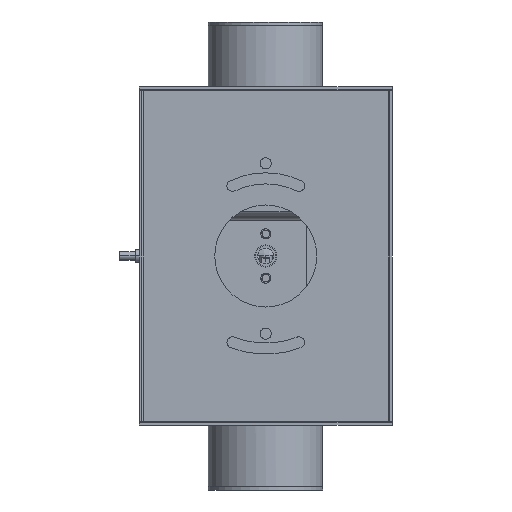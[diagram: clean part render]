
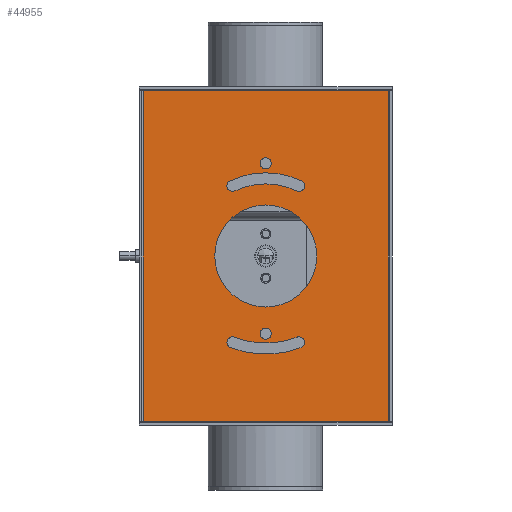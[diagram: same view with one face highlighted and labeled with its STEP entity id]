
A CAD part, left-side view. The second image highlights one B-rep face of the part: STEP entity #44955.
In plain terms, the highlighted planar face has unit normal (-1, 0, 0) as drawn and (1, 0, 0) by its records, which use the part's own axes.
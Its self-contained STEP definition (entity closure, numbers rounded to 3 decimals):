
#43965=DIRECTION('',(0.,0.,1.));
#43966=VECTOR('',#43965,110.6);
#43967=CARTESIAN_POINT('',(1.2,74.55,-55.3));
#43968=LINE('',#43967,#43966);
#43990=CARTESIAN_POINT('',(1.2,-35.,0.));
#43991=DIRECTION('',(1.,0.,0.));
#43992=DIRECTION('',(0.,0.,1.));
#43993=AXIS2_PLACEMENT_3D('',#43990,#43991,#43992);
#43995=CARTESIAN_POINT('',(1.2,-35.,0.));
#43996=DIRECTION('',(1.,0.,0.));
#43997=DIRECTION('',(0.,0.,-1.));
#43998=AXIS2_PLACEMENT_3D('',#43995,#43996,#43997);
#44000=CARTESIAN_POINT('',(1.2,41.75,0.));
#44001=DIRECTION('',(1.,0.,0.));
#44002=DIRECTION('',(0.,0.,1.));
#44003=AXIS2_PLACEMENT_3D('',#44000,#44001,#44002);
#44005=CARTESIAN_POINT('',(1.2,41.75,0.));
#44006=DIRECTION('',(1.,0.,0.));
#44007=DIRECTION('',(0.,0.,-1.));
#44008=AXIS2_PLACEMENT_3D('',#44005,#44006,#44007);
#44010=CARTESIAN_POINT('',(1.2,0.,0.));
#44011=DIRECTION('',(1.,0.,0.));
#44012=DIRECTION('',(0.,0.,1.));
#44013=AXIS2_PLACEMENT_3D('',#44010,#44011,#44012);
#44015=CARTESIAN_POINT('',(1.2,0.,0.));
#44016=DIRECTION('',(1.,0.,0.));
#44017=DIRECTION('',(0.,0.,-1.));
#44018=AXIS2_PLACEMENT_3D('',#44015,#44016,#44017);
#44020=CARTESIAN_POINT('',(1.2,31.623,15.));
#44021=DIRECTION('',(1.,0.,0.));
#44022=DIRECTION('',(0.,0.904,0.429));
#44023=AXIS2_PLACEMENT_3D('',#44020,#44021,#44022);
#44025=CARTESIAN_POINT('',(1.2,0.,0.));
#44026=DIRECTION('',(1.,0.,0.));
#44027=DIRECTION('',(0.,0.904,-0.429));
#44028=AXIS2_PLACEMENT_3D('',#44025,#44026,#44027);
#44030=CARTESIAN_POINT('',(1.2,31.623,-15.));
#44031=DIRECTION('',(1.,0.,0.));
#44032=DIRECTION('',(0.,-0.904,0.429));
#44033=AXIS2_PLACEMENT_3D('',#44030,#44031,#44032);
#44035=CARTESIAN_POINT('',(1.2,0.,0.));
#44036=DIRECTION('',(1.,0.,0.));
#44037=DIRECTION('',(0.,0.904,-0.429));
#44038=AXIS2_PLACEMENT_3D('',#44035,#44036,#44037);
#44040=CARTESIAN_POINT('',(1.2,0.,0.));
#44041=DIRECTION('',(1.,0.,0.));
#44042=DIRECTION('',(0.,-0.933,0.359));
#44043=AXIS2_PLACEMENT_3D('',#44040,#44041,#44042);
#44045=CARTESIAN_POINT('',(1.2,-38.962,15.));
#44046=DIRECTION('',(1.,0.,0.));
#44047=DIRECTION('',(0.,0.933,-0.359));
#44048=AXIS2_PLACEMENT_3D('',#44045,#44046,#44047);
#44050=CARTESIAN_POINT('',(1.2,0.,0.));
#44051=DIRECTION('',(1.,0.,0.));
#44052=DIRECTION('',(0.,-0.933,0.359));
#44053=AXIS2_PLACEMENT_3D('',#44050,#44051,#44052);
#44055=CARTESIAN_POINT('',(1.2,-38.962,-15.));
#44056=DIRECTION('',(1.,0.,0.));
#44057=DIRECTION('',(0.,-0.933,-0.359));
#44058=AXIS2_PLACEMENT_3D('',#44055,#44056,#44057);
#44069=DIRECTION('',(0.,1.,0.));
#44070=VECTOR('',#44069,149.1);
#44071=CARTESIAN_POINT('',(1.2,-74.55,-55.3));
#44072=LINE('',#44071,#44070);
#44103=DIRECTION('',(0.,0.,-1.));
#44104=VECTOR('',#44103,110.6);
#44105=CARTESIAN_POINT('',(1.2,-74.55,55.3));
#44106=LINE('',#44105,#44104);
#44141=DIRECTION('',(0.,-1.,0.));
#44142=VECTOR('',#44141,149.1);
#44143=CARTESIAN_POINT('',(1.2,74.55,55.3));
#44144=LINE('',#44143,#44142);
#44230=CARTESIAN_POINT('',(1.2,0.,23.));
#44231=CARTESIAN_POINT('',(1.2,0.,-23.));
#44232=VERTEX_POINT('',#44230);
#44233=VERTEX_POINT('',#44231);
#44234=CARTESIAN_POINT('',(1.2,41.75,2.5));
#44235=CARTESIAN_POINT('',(1.2,41.75,-2.5));
#44236=VERTEX_POINT('',#44234);
#44237=VERTEX_POINT('',#44235);
#44238=CARTESIAN_POINT('',(1.2,-35.,2.5));
#44239=CARTESIAN_POINT('',(1.2,-35.,-2.5));
#44240=VERTEX_POINT('',#44238);
#44241=VERTEX_POINT('',#44239);
#44243=CARTESIAN_POINT('',(1.2,33.882,16.071));
#44245=VERTEX_POINT('',#44243);
#44247=CARTESIAN_POINT('',(1.2,29.364,13.929));
#44249=VERTEX_POINT('',#44247);
#44251=CARTESIAN_POINT('',(1.2,33.882,-16.071));
#44253=VERTEX_POINT('',#44251);
#44255=CARTESIAN_POINT('',(1.2,29.364,-13.929));
#44257=VERTEX_POINT('',#44255);
#44259=CARTESIAN_POINT('',(1.2,-36.629,14.102));
#44261=VERTEX_POINT('',#44259);
#44263=CARTESIAN_POINT('',(1.2,-41.295,15.898));
#44265=VERTEX_POINT('',#44263);
#44267=CARTESIAN_POINT('',(1.2,-41.295,-15.898));
#44269=VERTEX_POINT('',#44267);
#44271=CARTESIAN_POINT('',(1.2,-36.629,-14.102));
#44273=VERTEX_POINT('',#44271);
#44324=CARTESIAN_POINT('',(1.2,74.55,55.3));
#44325=VERTEX_POINT('',#44324);
#44328=CARTESIAN_POINT('',(1.2,-74.55,55.3));
#44329=VERTEX_POINT('',#44328);
#44348=CARTESIAN_POINT('',(1.2,-74.55,-55.3));
#44349=VERTEX_POINT('',#44348);
#44352=CARTESIAN_POINT('',(1.2,74.55,-55.3));
#44353=VERTEX_POINT('',#44352);
#44903=CARTESIAN_POINT('',(1.2,0.,0.));
#44904=DIRECTION('',(1.,0.,0.));
#44905=DIRECTION('',(0.,-1.,0.));
#44906=AXIS2_PLACEMENT_3D('',#44903,#44904,#44905);
#44907=PLANE('',#44906);
#44908=ORIENTED_EDGE('',*,*,#44884,.F.);
#44910=ORIENTED_EDGE('',*,*,#44909,.F.);
#44912=ORIENTED_EDGE('',*,*,#44911,.F.);
#44914=ORIENTED_EDGE('',*,*,#44913,.F.);
#44915=EDGE_LOOP('',(#44908,#44910,#44912,#44914));
#44916=FACE_OUTER_BOUND('',#44915,.F.);
#44918=ORIENTED_EDGE('',*,*,#44917,.T.);
#44920=ORIENTED_EDGE('',*,*,#44919,.T.);
#44921=EDGE_LOOP('',(#44918,#44920));
#44922=FACE_BOUND('',#44921,.F.);
#44924=ORIENTED_EDGE('',*,*,#44923,.T.);
#44926=ORIENTED_EDGE('',*,*,#44925,.T.);
#44927=EDGE_LOOP('',(#44924,#44926));
#44928=FACE_BOUND('',#44927,.F.);
#44930=ORIENTED_EDGE('',*,*,#44929,.T.);
#44932=ORIENTED_EDGE('',*,*,#44931,.T.);
#44933=EDGE_LOOP('',(#44930,#44932));
#44934=FACE_BOUND('',#44933,.F.);
#44936=ORIENTED_EDGE('',*,*,#44935,.T.);
#44938=ORIENTED_EDGE('',*,*,#44937,.F.);
#44940=ORIENTED_EDGE('',*,*,#44939,.T.);
#44942=ORIENTED_EDGE('',*,*,#44941,.T.);
#44943=EDGE_LOOP('',(#44936,#44938,#44940,#44942));
#44944=FACE_BOUND('',#44943,.F.);
#44946=ORIENTED_EDGE('',*,*,#44945,.F.);
#44948=ORIENTED_EDGE('',*,*,#44947,.T.);
#44950=ORIENTED_EDGE('',*,*,#44949,.T.);
#44952=ORIENTED_EDGE('',*,*,#44951,.T.);
#44953=EDGE_LOOP('',(#44946,#44948,#44950,#44952));
#44954=FACE_BOUND('',#44953,.F.);
#43994=CIRCLE('',#43993,2.5);
#43999=CIRCLE('',#43998,2.5);
#44004=CIRCLE('',#44003,2.5);
#44009=CIRCLE('',#44008,2.5);
#44014=CIRCLE('',#44013,23.);
#44019=CIRCLE('',#44018,23.);
#44024=CIRCLE('',#44023,2.5);
#44029=CIRCLE('',#44028,32.5);
#44034=CIRCLE('',#44033,2.5);
#44039=CIRCLE('',#44038,37.5);
#44044=CIRCLE('',#44043,39.25);
#44049=CIRCLE('',#44048,2.5);
#44054=CIRCLE('',#44053,44.25);
#44059=CIRCLE('',#44058,2.5);
#44884=EDGE_CURVE('',#44353,#44325,#43968,.T.);
#44909=EDGE_CURVE('',#44349,#44353,#44072,.T.);
#44911=EDGE_CURVE('',#44329,#44349,#44106,.T.);
#44913=EDGE_CURVE('',#44325,#44329,#44144,.T.);
#44917=EDGE_CURVE('',#44240,#44241,#43994,.T.);
#44919=EDGE_CURVE('',#44241,#44240,#43999,.T.);
#44923=EDGE_CURVE('',#44236,#44237,#44004,.T.);
#44925=EDGE_CURVE('',#44237,#44236,#44009,.T.);
#44929=EDGE_CURVE('',#44232,#44233,#44014,.T.);
#44931=EDGE_CURVE('',#44233,#44232,#44019,.T.);
#44935=EDGE_CURVE('',#44245,#44249,#44024,.T.);
#44937=EDGE_CURVE('',#44257,#44249,#44029,.T.);
#44939=EDGE_CURVE('',#44257,#44253,#44034,.T.);
#44941=EDGE_CURVE('',#44253,#44245,#44039,.T.);
#44945=EDGE_CURVE('',#44261,#44273,#44044,.T.);
#44947=EDGE_CURVE('',#44261,#44265,#44049,.T.);
#44949=EDGE_CURVE('',#44265,#44269,#44054,.T.);
#44951=EDGE_CURVE('',#44269,#44273,#44059,.T.);
#44955=ADVANCED_FACE('',(#44916,#44922,#44928,#44934,#44944,#44954),#44907,.T.);
